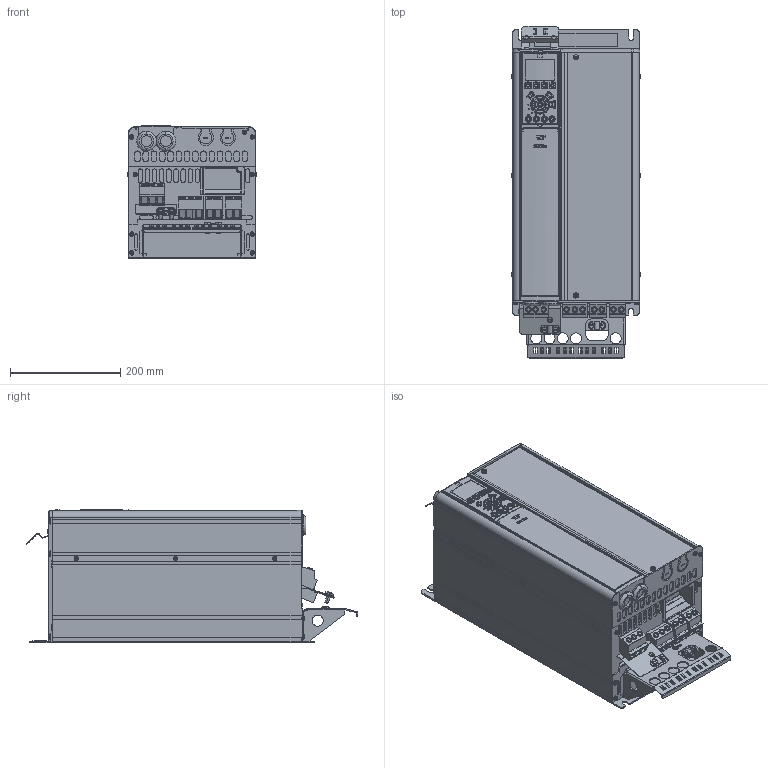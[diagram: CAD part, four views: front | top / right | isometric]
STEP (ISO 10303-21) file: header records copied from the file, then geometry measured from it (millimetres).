
FILE_DESCRIPTION((''),'2;1');
FILE_NAME('DANFOSS-FC200-B4-IP20-OPT-119','2007-07-10T',('Naushad.pm'),('dan Drives A/S'),'PRO/ENGINEER BY PARAMETRIC TECHNOLOGY CORPORATION, 2006200','PRO/ENGINEER BY PARAMETRIC TECHNOLOGY CORPORATION, 2006200','');
FILE_SCHEMA(('CONFIG_CONTROL_DESIGN', 'GEOMETRIC_VALIDATION_PROPERTIES_MIM'));
Products named in the file (1): DANFOSS-FC200-B4-IP20-OPT-119
Bounding box: 236 x 602.49 x 242.01 mm (x, y, z)
Volume: 21995101 mm3; surface area: 1402439.2 mm2
Topology: 1 solids, 31 shells, 4603 faces, 12252 edges, 7829 vertices
Faces by surface type: plane 2553, cylinder 1158, bspline 487, torus 161, extrusion 90, cone 78, sphere 76
Entity records: 189918 total; most frequent: CARTESIAN_POINT 64222, ORIENTED_EDGE 24344, DIRECTION 20057, EDGE_CURVE 12172, VERTEX_POINT 7829, VECTOR 6847, LINE 6757, AXIS2_PLACEMENT_3D 6605
